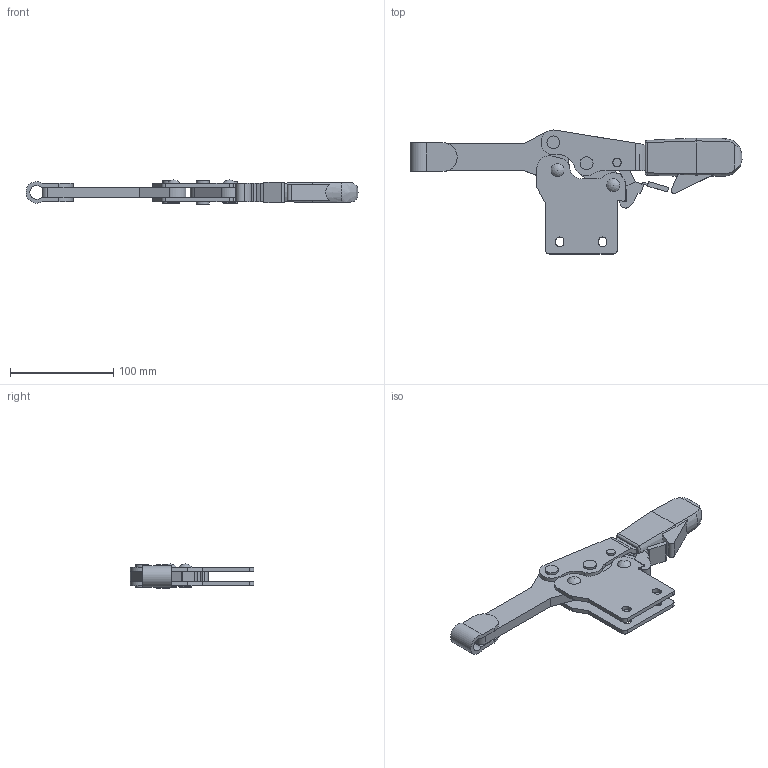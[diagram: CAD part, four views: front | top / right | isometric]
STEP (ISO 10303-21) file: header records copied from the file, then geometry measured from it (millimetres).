
FILE_DESCRIPTION( ( 'STEP AP203' ), '1' );
FILE_NAME( 'C:/Temp/Ganter_Step_05_03_2020/data/2_4/gn_820_4/gn_820_4_st/Toggle clamp GN 820.4-455-PL (closed).stp', '2020-03-13T05:53:37', ( 'License CC BY-ND 4.0' ), ( 'CADENAS' ), ' ', 'PARTsolutions', ' ' );
FILE_SCHEMA( ( 'CONFIG_CONTROL_DESIGN' ) );
Length unit declared in the file: millimetre
Products named in the file (6): Toggle clamp GN 820.4-455-PL (closed); _Toggle clamp GN 820.4-455-PL-1; _Toggle clamp GN 820.4-455-PL (1)-2; _Toggle clamp GN 820.4-455-PL (1)-3; _Toggle clamp GN 820.4-455-PL (1)-4; _Toggle clamp GN 820.4-455-PL-5
Assembly tree (5 placements, depth 2):
  Toggle clamp GN 820.4-455-PL (closed)
    _Toggle clamp GN 820.4-455-PL-1
    _Toggle clamp GN 820.4-455-PL (1)-2
    _Toggle clamp GN 820.4-455-PL (1)-3
    _Toggle clamp GN 820.4-455-PL (1)-4
    _Toggle clamp GN 820.4-455-PL-5
Bounding box: 322.15 x 120.3 x 23.3 mm (x, y, z)
Volume: 210665.8 mm3; surface area: 77063.4 mm2
Topology: 5 solids, 5 shells, 205 faces, 552 edges, 367 vertices
Faces by surface type: plane 108, cylinder 85, bspline 4, torus 4, cone 4
Full cylindrical faces by diameter (mm): 8 x9, 12.5 x10
Entity records: 6766 total; most frequent: CARTESIAN_POINT 1407, DIRECTION 1091, ORIENTED_EDGE 1036, EDGE_CURVE 518, AXIS2_PLACEMENT_3D 394, VERTEX_POINT 358, LINE 303, VECTOR 303
